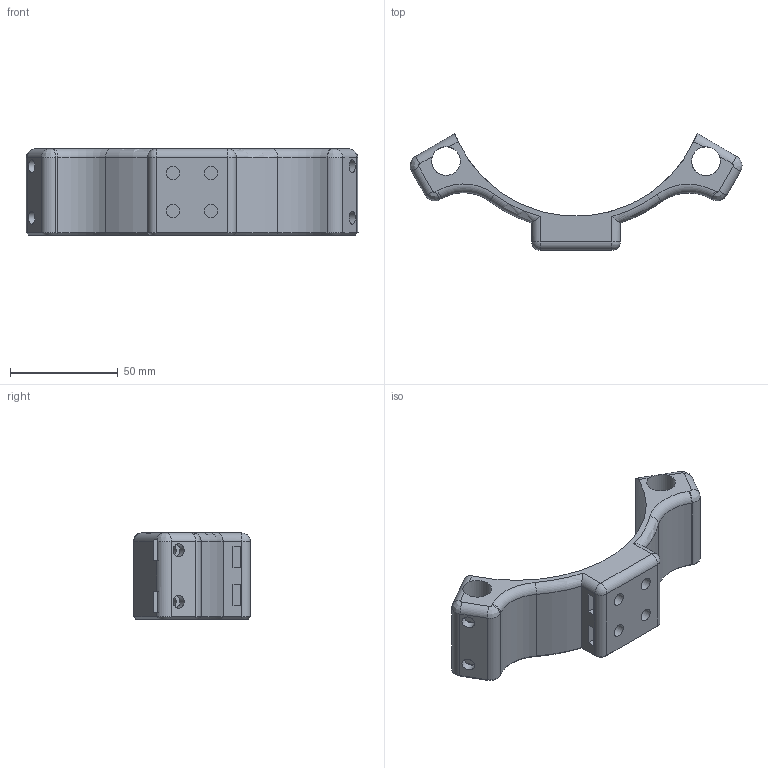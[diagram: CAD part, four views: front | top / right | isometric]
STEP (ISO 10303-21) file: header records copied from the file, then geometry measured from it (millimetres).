
FILE_DESCRIPTION(/* description */ (''),/* implementation_level */ '2;1');
FILE_NAME(/* name */ 'tripod_bracket.stp',/* time_stamp */ '2022-09-12T11:30:57-04:00',/* author */ (''),/* organization */ (''),/* preprocessor_version */ 'ST-DEVELOPER v18.1',/* originating_system */ 'SIEMENS PLM Software NX 1953',/* authorisation */ '');
FILE_SCHEMA (('AUTOMOTIVE_DESIGN { 1 0 10303 214 3 1 1 1 }'));
Length unit declared in the file: millimetre
Products named in the file (1): tripod_bracket
Bounding box: 154.17 x 54.19 x 40 mm (x, y, z)
Volume: 74946.5 mm3; surface area: 26983.2 mm2
Topology: 1 solids, 1 shells, 130 faces, 341 edges, 217 vertices
Faces by surface type: plane 72, cylinder 38, cone 10, torus 4, bspline 4, sphere 2
Full cylindrical faces by diameter (mm): 6 x16, 13.35 x1, 13.393 x1
Entity records: 4044 total; most frequent: CARTESIAN_POINT 905, DIRECTION 650, ORIENTED_EDGE 612, EDGE_CURVE 306, AXIS2_PLACEMENT_3D 235, VERTEX_POINT 202, EDGE_LOOP 182, LINE 180
